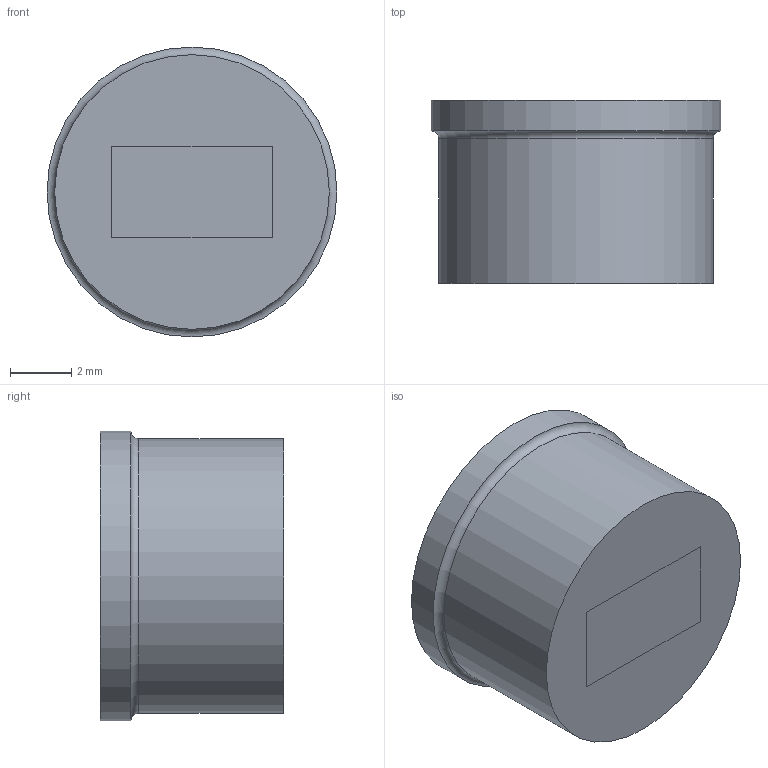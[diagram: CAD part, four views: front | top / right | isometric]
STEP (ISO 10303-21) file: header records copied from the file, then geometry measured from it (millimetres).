
FILE_DESCRIPTION(/* description */ (''),/* implementation_level */ '2;1');
FILE_NAME(/* name */ 'PIR.step',/* time_stamp */ '2026-06-27T03:53:25+02:00',/* author */ (''),/* organization */ (''),/* preprocessor_version */ 'ST-DEVELOPER v20.1',/* originating_system */ 'Autodesk Translation Framework v15.8.0.0',/* authorisation */ '');
FILE_SCHEMA (('AUTOMOTIVE_DESIGN { 1 0 10303 214 3 1 1 }'));
Length unit declared in the file: millimetre
Products named in the file (2): 2026-06-27-03-53-25-016; 2026-06-27-03-53-25-017
Assembly tree (1 placements, depth 2):
  2026-06-27-03-53-25-016
    2026-06-27-03-53-25-017
Bounding box: 9.5 x 6 x 9.5 mm (x, y, z)
Volume: 389.4 mm3; surface area: 310 mm2
Topology: 1 solids, 1 shells, 6 faces, 13 edges, 10 vertices
Faces by surface type: plane 3, cylinder 2, torus 1
Full cylindrical faces by diameter (mm): 9 x1, 9.5 x1
Entity records: 253 total; most frequent: DIRECTION 38, CARTESIAN_POINT 32, ORIENTED_EDGE 26, AXIS2_PLACEMENT_3D 16, EDGE_CURVE 13, VERTEX_POINT 10, EDGE_LOOP 7, CIRCLE 7
